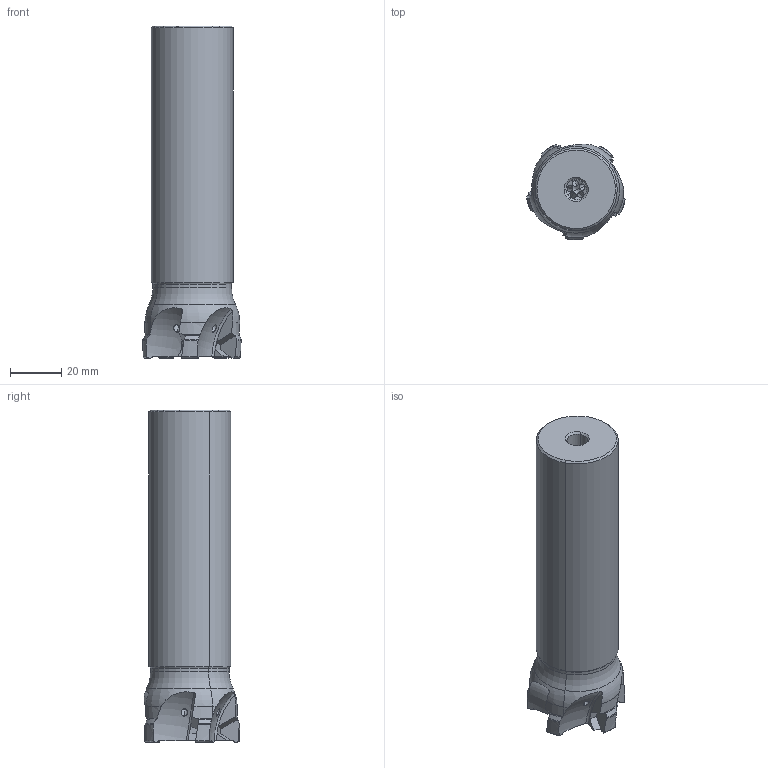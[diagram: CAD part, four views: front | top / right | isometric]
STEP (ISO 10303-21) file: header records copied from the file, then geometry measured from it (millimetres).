
FILE_DESCRIPTION(('CATIA V5 STEP'),'2;1');
FILE_NAME('I:\isr\design\admin8\users\yousef_k\3106421-D.stp','2012-11-15T07:49:31+00:00',('none'),('none'),'CATIA Version 5 Release 21 SP 3 (IN-10)','CATIA V5 STEP AP214','none');
FILE_SCHEMA(('AUTOMOTIVE_DESIGN { 1 0 10303 214 1 1 1 1 }'));
Length unit declared in the file: millimetre
Products named in the file (1): 61069323_0  HM390 ETP D40-5-C32-10
Bounding box: 38.38 x 37.36 x 129.4 mm (x, y, z)
Volume: 97048.9 mm3; surface area: 18706.7 mm2
Topology: 1 solids, 1 shells, 128 faces, 359 edges, 232 vertices
Faces by surface type: torus 40, plane 38, cone 23, cylinder 22, revolution 5
Entity records: 4499 total; most frequent: CARTESIAN_POINT 1712, ORIENTED_EDGE 714, EDGE_CURVE 357, DIRECTION 344, VERTEX_POINT 232, AXIS2_PLACEMENT_3D 181, B_SPLINE_CURVE_WITH_KNOTS 169, EDGE_LOOP 139
